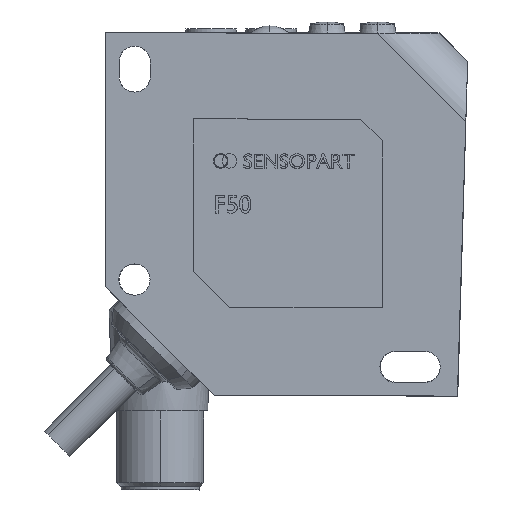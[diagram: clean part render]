
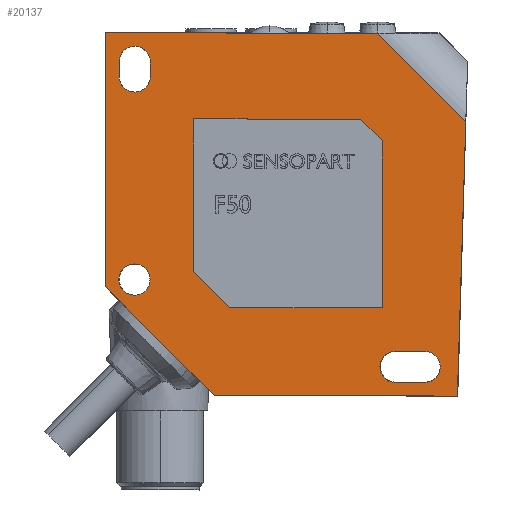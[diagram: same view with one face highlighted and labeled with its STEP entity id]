
A CAD part, front view. The second image highlights one B-rep face of the part: STEP entity #20137.
In plain terms, the highlighted planar face has unit normal (0, -1, 0).
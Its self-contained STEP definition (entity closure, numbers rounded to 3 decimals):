
#11614=CARTESIAN_POINT('',(328.544,291.086,28.817));
#11615=VERTEX_POINT('',#11614);
#11624=CARTESIAN_POINT('',(332.844,291.086,28.813));
#11625=VERTEX_POINT('',#11624);
#11626=CARTESIAN_POINT('',(330.694,291.086,28.815));
#11627=DIRECTION('',(0.,1.,0.));
#11628=DIRECTION('',(-1.,0.,0.001));
#11629=AXIS2_PLACEMENT_3D('',#11626,#11627,#11628);
#11630=CIRCLE('',#11629,2.15);
#11631=EDGE_CURVE('',#11625,#11615,#11630,.T.);
#19404=CARTESIAN_POINT('',(364.839,291.086,24.928));
#19405=VERTEX_POINT('',#19404);
#19412=CARTESIAN_POINT('',(364.865,291.091,47.928));
#19413=VERTEX_POINT('',#19412);
#19414=CARTESIAN_POINT('',(364.865,291.091,47.928));
#19415=DIRECTION('',(-0.001,0.,-1.));
#19416=VECTOR('',#19415,23.);
#19417=LINE('',#19414,#19416);
#19418=EDGE_CURVE('',#19413,#19405,#19417,.T.);
#19436=CARTESIAN_POINT('',(361.868,291.092,50.931));
#19437=VERTEX_POINT('',#19436);
#19438=CARTESIAN_POINT('',(361.868,291.092,50.931));
#19439=DIRECTION('',(0.706,0.,-0.708));
#19440=VECTOR('',#19439,4.243);
#19441=LINE('',#19438,#19440);
#19442=EDGE_CURVE('',#19437,#19413,#19441,.T.);
#19460=CARTESIAN_POINT('',(338.868,291.092,50.956));
#19461=VERTEX_POINT('',#19460);
#19462=CARTESIAN_POINT('',(338.868,291.092,50.956));
#19463=DIRECTION('',(1.,0.,-0.001));
#19464=VECTOR('',#19463,23.);
#19465=LINE('',#19462,#19464);
#19466=EDGE_CURVE('',#19461,#19437,#19465,.T.);
#19484=CARTESIAN_POINT('',(338.845,291.087,29.956));
#19485=VERTEX_POINT('',#19484);
#19486=CARTESIAN_POINT('',(338.845,291.087,29.956));
#19487=DIRECTION('',(0.001,0.,1.));
#19488=VECTOR('',#19487,21.0);
#19489=LINE('',#19486,#19488);
#19490=EDGE_CURVE('',#19485,#19461,#19489,.T.);
#19508=CARTESIAN_POINT('',(343.839,291.085,24.951));
#19509=VERTEX_POINT('',#19508);
#19510=CARTESIAN_POINT('',(343.839,291.085,24.951));
#19511=DIRECTION('',(-0.706,0.,0.708));
#19512=VECTOR('',#19511,7.071);
#19513=LINE('',#19510,#19512);
#19514=EDGE_CURVE('',#19509,#19485,#19513,.T.);
#19532=CARTESIAN_POINT('',(364.839,291.086,24.928));
#19533=DIRECTION('',(-1.,0.,0.001));
#19534=VECTOR('',#19533,21.);
#19535=LINE('',#19532,#19534);
#19536=EDGE_CURVE('',#19405,#19509,#19535,.T.);
#19899=CARTESIAN_POINT('',(375.196,291.083,12.766));
#19900=VERTEX_POINT('',#19899);
#19901=CARTESIAN_POINT('',(376.358,291.092,50.625));
#19902=VERTEX_POINT('',#19901);
#19903=CARTESIAN_POINT('',(375.196,291.083,12.766));
#19904=DIRECTION('',(0.031,0.,1.));
#19905=VECTOR('',#19904,37.876);
#19906=LINE('',#19903,#19905);
#19907=EDGE_CURVE('',#19900,#19902,#19906,.T.);
#19983=CARTESIAN_POINT('',(364.231,291.095,62.778));
#19984=VERTEX_POINT('',#19983);
#20000=CARTESIAN_POINT('',(376.358,291.092,50.625));
#20001=CARTESIAN_POINT('',(364.231,291.095,62.778));
#20002=B_SPLINE_CURVE_WITH_KNOTS('',1,(#20000,#20001),.UNSPECIFIED.,.F.,.U.,(2,2),(0.029,1.0),.UNSPECIFIED.);
#20003=EDGE_CURVE('',#19902,#19984,#20002,.T.);
#20008=CARTESIAN_POINT('',(349.701,291.088,35.794));
#20009=DIRECTION('',(0.,1.,0.));
#20010=DIRECTION('',(-1.,0.,0.001));
#20011=AXIS2_PLACEMENT_3D('',#20008,#20009,#20010);
#20012=PLANE('',#20011);
#20013=ORIENTED_EDGE('',*,*,#19907,.T.);
#20014=ORIENTED_EDGE('',*,*,#20003,.T.);
#20015=CARTESIAN_POINT('',(326.731,291.095,62.819));
#20016=VERTEX_POINT('',#20015);
#20017=CARTESIAN_POINT('',(364.231,291.095,62.778));
#20018=DIRECTION('',(-1.,0.,0.001));
#20019=VECTOR('',#20018,37.5);
#20020=LINE('',#20017,#20019);
#20021=EDGE_CURVE('',#19984,#20016,#20020,.T.);
#20022=ORIENTED_EDGE('',*,*,#20021,.T.);
#20023=CARTESIAN_POINT('',(326.693,291.086,27.82));
#20024=VERTEX_POINT('',#20023);
#20025=CARTESIAN_POINT('',(326.731,291.095,62.819));
#20026=DIRECTION('',(-0.001,0.,-1.));
#20027=VECTOR('',#20026,35.);
#20028=LINE('',#20025,#20027);
#20029=EDGE_CURVE('',#20016,#20024,#20028,.T.);
#20030=ORIENTED_EDGE('',*,*,#20029,.T.);
#20031=CARTESIAN_POINT('',(341.676,291.082,12.803));
#20032=VERTEX_POINT('',#20031);
#20033=CARTESIAN_POINT('',(326.693,291.086,27.82));
#20034=DIRECTION('',(0.706,0.,-0.708));
#20035=VECTOR('',#20034,21.213);
#20036=LINE('',#20033,#20035);
#20037=EDGE_CURVE('',#20024,#20032,#20036,.T.);
#20038=ORIENTED_EDGE('',*,*,#20037,.T.);
#20039=CARTESIAN_POINT('',(341.676,291.082,12.803));
#20040=DIRECTION('',(1.,0.,-0.001));
#20041=VECTOR('',#20040,33.52);
#20042=LINE('',#20039,#20041);
#20043=EDGE_CURVE('',#20032,#19900,#20042,.T.);
#20044=ORIENTED_EDGE('',*,*,#20043,.T.);
#20045=EDGE_LOOP('',(#20013,#20014,#20022,#20030,#20038,#20044));
#20046=FACE_OUTER_BOUND('',#20045,.T.);
#20047=ORIENTED_EDGE('',*,*,#19418,.T.);
#20048=ORIENTED_EDGE('',*,*,#19536,.T.);
#20049=ORIENTED_EDGE('',*,*,#19514,.T.);
#20050=ORIENTED_EDGE('',*,*,#19490,.T.);
#20051=ORIENTED_EDGE('',*,*,#19466,.T.);
#20052=ORIENTED_EDGE('',*,*,#19442,.T.);
#20053=EDGE_LOOP('',(#20047,#20048,#20049,#20050,#20051,#20052));
#20054=FACE_BOUND('',#20053,.T.);
#20055=CARTESIAN_POINT('',(332.874,291.093,56.813));
#20056=VERTEX_POINT('',#20055);
#20057=CARTESIAN_POINT('',(328.574,291.093,56.817));
#20058=VERTEX_POINT('',#20057);
#20059=CARTESIAN_POINT('',(330.724,291.093,56.815));
#20060=DIRECTION('',(0.,1.,0.));
#20061=DIRECTION('',(-1.,0.,0.001));
#20062=AXIS2_PLACEMENT_3D('',#20059,#20060,#20061);
#20063=CIRCLE('',#20062,2.15);
#20064=EDGE_CURVE('',#20056,#20058,#20063,.T.);
#20065=ORIENTED_EDGE('',*,*,#20064,.T.);
#20066=CARTESIAN_POINT('',(328.576,291.094,58.817));
#20067=VERTEX_POINT('',#20066);
#20068=CARTESIAN_POINT('',(328.574,291.093,56.817));
#20069=DIRECTION('',(0.001,0.,1.));
#20070=VECTOR('',#20069,2.);
#20071=LINE('',#20068,#20070);
#20072=EDGE_CURVE('',#20058,#20067,#20071,.T.);
#20073=ORIENTED_EDGE('',*,*,#20072,.T.);
#20074=CARTESIAN_POINT('',(332.876,291.094,58.813));
#20075=VERTEX_POINT('',#20074);
#20076=CARTESIAN_POINT('',(330.726,291.094,58.815));
#20077=DIRECTION('',(0.,1.,0.));
#20078=DIRECTION('',(-1.,0.,0.001));
#20079=AXIS2_PLACEMENT_3D('',#20076,#20077,#20078);
#20080=CIRCLE('',#20079,2.15);
#20081=EDGE_CURVE('',#20067,#20075,#20080,.T.);
#20082=ORIENTED_EDGE('',*,*,#20081,.T.);
#20083=CARTESIAN_POINT('',(332.876,291.094,58.813));
#20084=DIRECTION('',(-0.001,0.,-1.));
#20085=VECTOR('',#20084,2.);
#20086=LINE('',#20083,#20085);
#20087=EDGE_CURVE('',#20075,#20056,#20086,.T.);
#20088=ORIENTED_EDGE('',*,*,#20087,.T.);
#20089=EDGE_LOOP('',(#20065,#20073,#20082,#20088));
#20090=FACE_BOUND('',#20089,.T.);
#20091=CARTESIAN_POINT('',(370.683,291.084,18.921));
#20092=VERTEX_POINT('',#20091);
#20093=CARTESIAN_POINT('',(370.678,291.083,14.621));
#20094=VERTEX_POINT('',#20093);
#20095=CARTESIAN_POINT('',(370.681,291.084,16.771));
#20096=DIRECTION('',(0.,1.,0.));
#20097=DIRECTION('',(-1.,0.,0.001));
#20098=AXIS2_PLACEMENT_3D('',#20095,#20096,#20097);
#20099=CIRCLE('',#20098,2.15);
#20100=EDGE_CURVE('',#20092,#20094,#20099,.T.);
#20101=ORIENTED_EDGE('',*,*,#20100,.T.);
#20102=CARTESIAN_POINT('',(366.678,291.083,14.626));
#20103=VERTEX_POINT('',#20102);
#20104=CARTESIAN_POINT('',(370.678,291.083,14.621));
#20105=DIRECTION('',(-1.,0.,0.001));
#20106=VECTOR('',#20105,4.);
#20107=LINE('',#20104,#20106);
#20108=EDGE_CURVE('',#20094,#20103,#20107,.T.);
#20109=ORIENTED_EDGE('',*,*,#20108,.T.);
#20110=CARTESIAN_POINT('',(366.683,291.084,18.926));
#20111=VERTEX_POINT('',#20110);
#20112=CARTESIAN_POINT('',(366.681,291.084,16.776));
#20113=DIRECTION('',(0.,1.,0.));
#20114=DIRECTION('',(-1.,0.,0.001));
#20115=AXIS2_PLACEMENT_3D('',#20112,#20113,#20114);
#20116=CIRCLE('',#20115,2.15);
#20117=EDGE_CURVE('',#20103,#20111,#20116,.T.);
#20118=ORIENTED_EDGE('',*,*,#20117,.T.);
#20119=CARTESIAN_POINT('',(366.683,291.084,18.926));
#20120=DIRECTION('',(1.,0.,-0.001));
#20121=VECTOR('',#20120,4.);
#20122=LINE('',#20119,#20121);
#20123=EDGE_CURVE('',#20111,#20092,#20122,.T.);
#20124=ORIENTED_EDGE('',*,*,#20123,.T.);
#20125=EDGE_LOOP('',(#20101,#20109,#20118,#20124));
#20126=FACE_BOUND('',#20125,.T.);
#20127=CARTESIAN_POINT('',(330.694,291.086,28.815));
#20128=DIRECTION('',(0.,1.,0.));
#20129=DIRECTION('',(-1.,0.,0.001));
#20130=AXIS2_PLACEMENT_3D('',#20127,#20128,#20129);
#20131=CIRCLE('',#20130,2.15);
#20132=EDGE_CURVE('',#11615,#11625,#20131,.T.);
#20133=ORIENTED_EDGE('',*,*,#20132,.T.);
#20134=ORIENTED_EDGE('',*,*,#11631,.T.);
#20135=EDGE_LOOP('',(#20133,#20134));
#20136=FACE_BOUND('',#20135,.T.);
#20137=ADVANCED_FACE('',(#20046,#20054,#20090,#20126,#20136),#20012,.F.);
